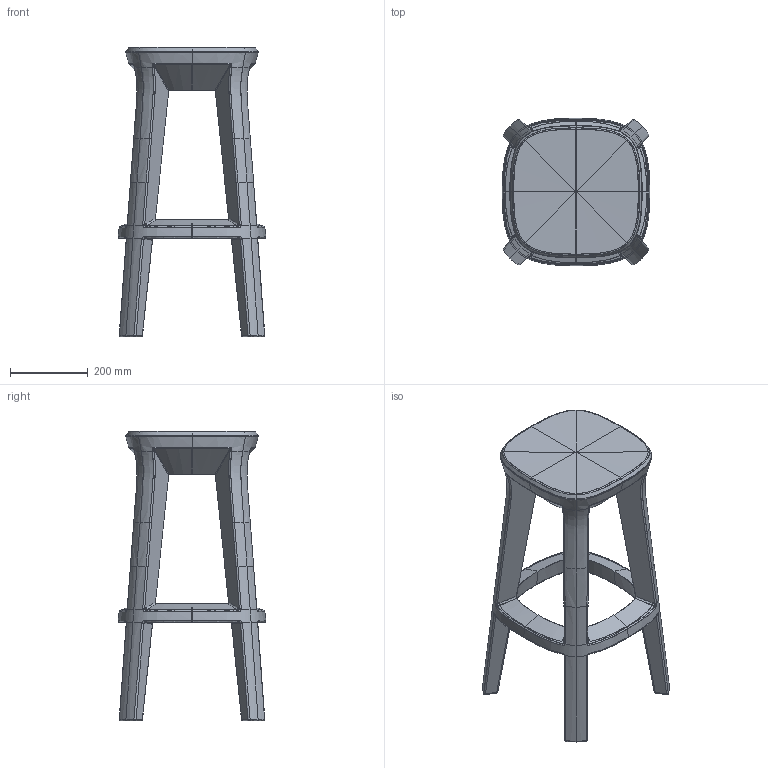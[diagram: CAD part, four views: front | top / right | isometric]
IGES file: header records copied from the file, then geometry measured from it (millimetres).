
Start section: START RECORD GO HERE.
Global section: file name: Frozen-Square-Stool.igs; native system: DASSAULT SYSTEMES CATIA Version 5-6 Release 2014 - www.3ds.com; preprocessor: V5-6R2014_5.24.5.0.02-24-2015.20.00; author: samatori; organization: DOMAIN; date: 20160420.145833; units: millimetre
Bounding box: 379.18 x 379.18 x 744.59 mm (x, y, z)
Surface area: 948515.3 mm2 (no closed solid volume)
Topology: 0 solids, 0 shells, 7182 faces, 41456 edges, 41448 vertices
Faces by surface type: plane 6413, bspline 672, revolution 97
